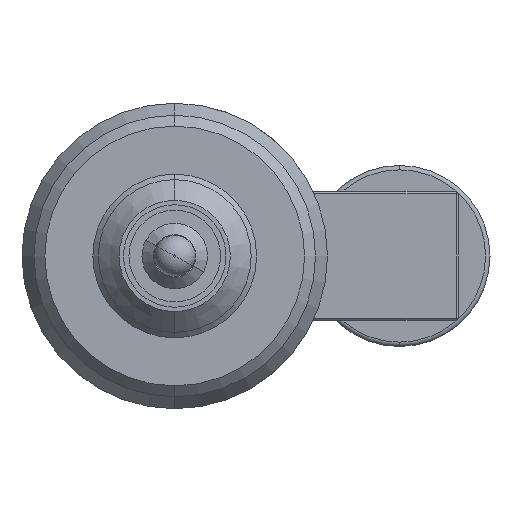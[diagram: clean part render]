
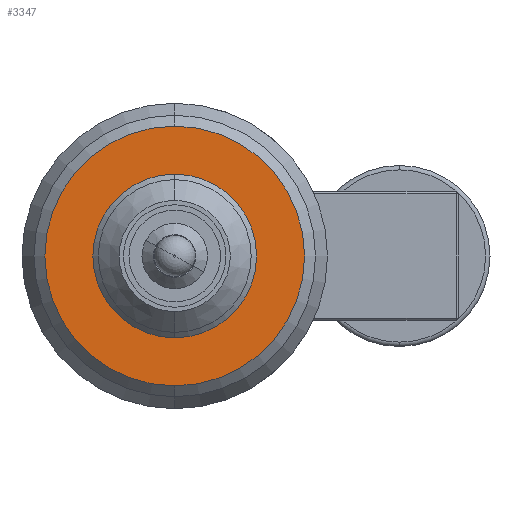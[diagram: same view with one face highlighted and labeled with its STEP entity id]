
A CAD part, front view. The second image highlights one B-rep face of the part: STEP entity #3347.
In plain terms, the highlighted planar face has unit normal (0, -1, 0).
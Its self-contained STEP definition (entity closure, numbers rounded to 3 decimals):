
#204 = FACE_BOUND ( 'NONE', #3450, .T. ) ;
#412 = VERTEX_POINT ( 'NONE', #6432 ) ;
#414 = AXIS2_PLACEMENT_3D ( 'NONE', #2971, #2995, #2392 ) ;
#893 = DIRECTION ( 'NONE',  ( 0., -1., 0. ) ) ;
#964 = CARTESIAN_POINT ( 'NONE',  ( 0., -19., -3.75 ) ) ;
#981 = PLANE ( 'NONE',  #4473 ) ;
#1098 = DIRECTION ( 'NONE',  ( 0., -1., 0. ) ) ;
#1103 = AXIS2_PLACEMENT_3D ( 'NONE', #2073, #3920, #6338 ) ;
#1970 = ORIENTED_EDGE ( 'NONE', *, *, #4132, .F. ) ;
#2035 = VERTEX_POINT ( 'NONE', #964 ) ;
#2073 = CARTESIAN_POINT ( 'NONE',  ( 0., -19., 0. ) ) ;
#2126 = CARTESIAN_POINT ( 'NONE',  ( 0., -19., 5.95 ) ) ;
#2176 = EDGE_CURVE ( 'NONE', #6488, #2435, #5118, .T. ) ;
#2392 = DIRECTION ( 'NONE',  ( 0., 0., 1. ) ) ;
#2435 = VERTEX_POINT ( 'NONE', #2126 ) ;
#2682 = ORIENTED_EDGE ( 'NONE', *, *, #2176, .T. ) ;
#2971 = CARTESIAN_POINT ( 'NONE',  ( 0., -19., 0. ) ) ;
#2995 = DIRECTION ( 'NONE',  ( 0., -1., 0. ) ) ;
#3004 = EDGE_LOOP ( 'NONE', ( #3074, #2682 ) ) ;
#3074 = ORIENTED_EDGE ( 'NONE', *, *, #7664, .T. ) ;
#3338 = FACE_OUTER_BOUND ( 'NONE', #3004, .T. ) ;
#3347 = ADVANCED_FACE ( 'NONE', ( #3338, #204 ), #981, .F. ) ;
#3450 = EDGE_LOOP ( 'NONE', ( #1970, #6466 ) ) ;
#3530 = DIRECTION ( 'NONE',  ( 0., 1., 0. ) ) ;
#3601 = CIRCLE ( 'NONE', #5129, 3.75 ) ;
#3602 = CIRCLE ( 'NONE', #1103, 3.75 ) ;
#3855 = CARTESIAN_POINT ( 'NONE',  ( 0., -19., 0. ) ) ;
#3920 = DIRECTION ( 'NONE',  ( 0., -1., 0. ) ) ;
#4132 = EDGE_CURVE ( 'NONE', #412, #2035, #3602, .T. ) ;
#4473 = AXIS2_PLACEMENT_3D ( 'NONE', #4708, #3530, #7777 ) ;
#4708 = CARTESIAN_POINT ( 'NONE',  ( 0., -19., 0. ) ) ;
#4750 = CARTESIAN_POINT ( 'NONE',  ( 0., -19., 0. ) ) ;
#5118 = CIRCLE ( 'NONE', #414, 5.95 ) ;
#5129 = AXIS2_PLACEMENT_3D ( 'NONE', #4750, #1098, #7242 ) ;
#5534 = CARTESIAN_POINT ( 'NONE',  ( 0., -19., -5.95 ) ) ;
#5722 = DIRECTION ( 'NONE',  ( 0., 0., 1. ) ) ;
#6338 = DIRECTION ( 'NONE',  ( 0., 0., 1. ) ) ;
#6432 = CARTESIAN_POINT ( 'NONE',  ( 0., -19., 3.75 ) ) ;
#6466 = ORIENTED_EDGE ( 'NONE', *, *, #6940, .F. ) ;
#6488 = VERTEX_POINT ( 'NONE', #5534 ) ;
#6940 = EDGE_CURVE ( 'NONE', #2035, #412, #3601, .T. ) ;
#7202 = CIRCLE ( 'NONE', #7520, 5.95 ) ;
#7242 = DIRECTION ( 'NONE',  ( 0., 0., 1. ) ) ;
#7520 = AXIS2_PLACEMENT_3D ( 'NONE', #3855, #893, #5722 ) ;
#7664 = EDGE_CURVE ( 'NONE', #2435, #6488, #7202, .T. ) ;
#7777 = DIRECTION ( 'NONE',  ( 0., 0., 1. ) ) ;
